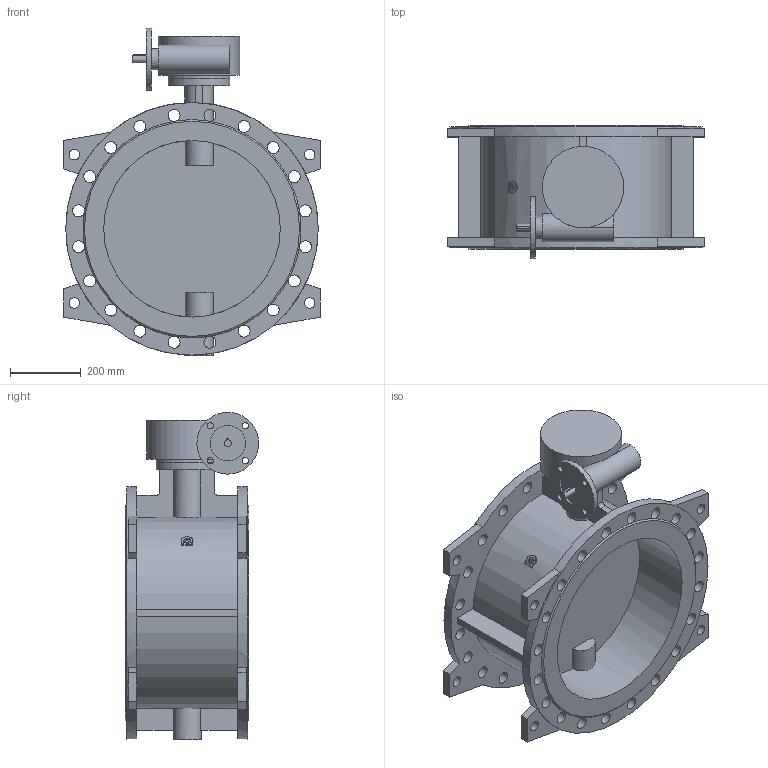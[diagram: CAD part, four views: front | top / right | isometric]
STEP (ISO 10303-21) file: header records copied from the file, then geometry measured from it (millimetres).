
FILE_DESCRIPTION(('STEP AP203'), '1');
FILE_NAME('Çàòâîð 023F.Z DN500 PN16_ð-ð_ôë', '', ('UNSPECIFIED'), ('UNSPECIFIED'), 'ASCON STEP Converter 1.6', 'ASCON Math Kernel', '');
FILE_SCHEMA(('CONFIG_CONTROL_DESIGN'));
Length unit declared in the file: millimetre
Assembly tree (2 placements, depth 2):
  (unnamed)
    (unnamed)
    (unnamed)
Bounding box: 726 x 377.5 x 926.5 mm (x, y, z)
Volume: 39915215.6 mm3; surface area: 2960159.7 mm2
Topology: 2 solids, 2 shells, 209 faces, 664 edges, 442 vertices
Faces by surface type: plane 110, cylinder 97, cone 2
Full cylindrical faces by diameter (mm): 14 x4, 18 x8, 20 x1, 30 x8, 34 x40, 42 x1, 60 x1, 80 x2, 100 x2, 175 x3, 230 x1, 500 x2, 715 x2
Entity records: 10196 total; most frequent: CARTESIAN_POINT 4140, DIRECTION 1233, ORIENTED_EDGE 1164, EDGE_CURVE 582, AXIS2_PLACEMENT_3D 502, VERTEX_POINT 441, EDGE_LOOP 383, CIRCLE 291
